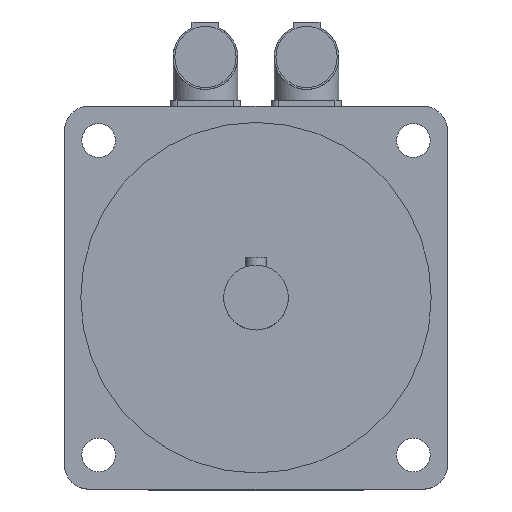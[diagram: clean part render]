
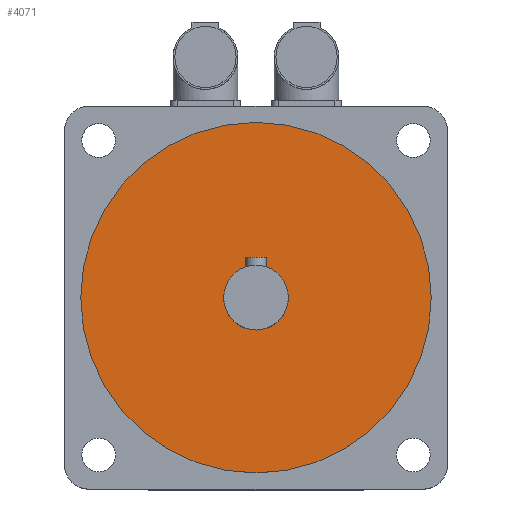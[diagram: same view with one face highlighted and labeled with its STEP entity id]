
A CAD part, top view. The second image highlights one B-rep face of the part: STEP entity #4071.
In plain terms, the highlighted planar face has unit normal (0, 0, 1).
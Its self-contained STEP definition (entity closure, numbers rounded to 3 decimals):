
#28=FACE_BOUND('',#533,.T.);
#79=PLANE('',#4432);
#278=FACE_OUTER_BOUND('',#532,.T.);
#532=EDGE_LOOP('',(#2985));
#533=EDGE_LOOP('',(#2986));
#1517=CIRCLE('',#4427,12.);
#1518=CIRCLE('',#4430,65.);
#1774=VERTEX_POINT('',#6532);
#1775=VERTEX_POINT('',#6536);
#2232=EDGE_CURVE('',#1774,#1774,#1517,.T.);
#2233=EDGE_CURVE('',#1775,#1775,#1518,.T.);
#2985=ORIENTED_EDGE('',*,*,#2233,.T.);
#2986=ORIENTED_EDGE('',*,*,#2232,.T.);
#4071=ADVANCED_FACE('',(#278,#28),#79,.F.);
#4427=AXIS2_PLACEMENT_3D('',#6533,#5205,#5206);
#4430=AXIS2_PLACEMENT_3D('',#6537,#5211,#5212);
#4432=AXIS2_PLACEMENT_3D('',#6540,#5215,#5216);
#5205=DIRECTION('center_axis',(0.,0.,
-1.));
#5206=DIRECTION('ref_axis',(-1.,0.,0.));
#5211=DIRECTION('center_axis',(0.,0.,
1.));
#5212=DIRECTION('ref_axis',(-1.,0.,0.));
#5215=DIRECTION('center_axis',(0.,0.,
-1.));
#5216=DIRECTION('ref_axis',(-1.,0.,0.));
#6532=CARTESIAN_POINT('',(12.,0.,161.5));
#6533=CARTESIAN_POINT('Origin',(0.,0.,
161.5));
#6536=CARTESIAN_POINT('',(65.,0.,161.5));
#6537=CARTESIAN_POINT('Origin',(0.,0.,
161.5));
#6540=CARTESIAN_POINT('Origin',(0.,0.,
161.5));
